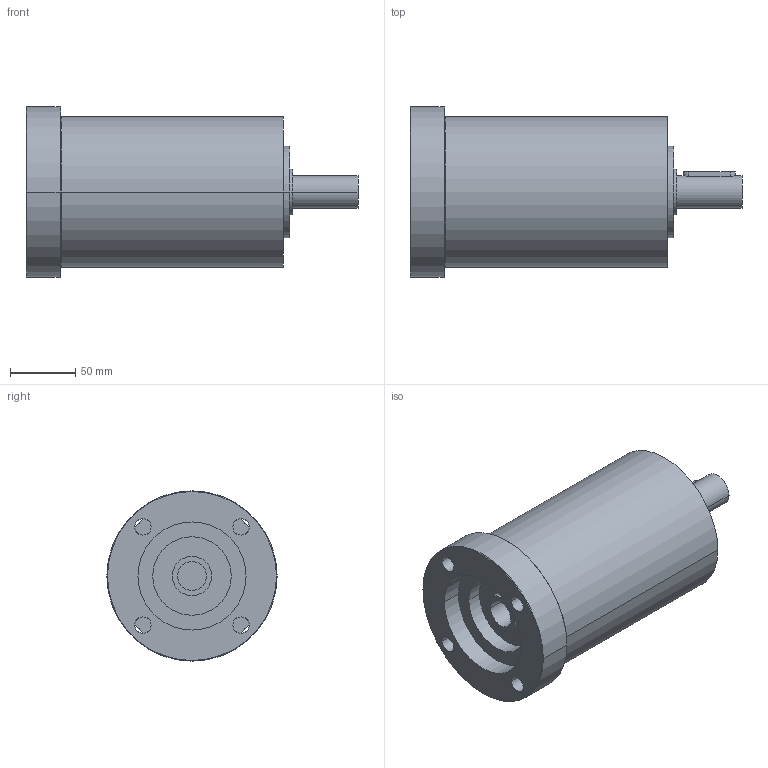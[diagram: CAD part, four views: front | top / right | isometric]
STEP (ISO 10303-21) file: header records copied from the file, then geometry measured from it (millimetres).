
FILE_DESCRIPTION(('CoCreate Modeling STEP Export'),'2;1');
FILE_NAME('GPR125_ig-9-12-16-20-28-35_25_B14_22_P21.stp','2014-08-26T14:11:08',(''),(''),'CoCreate Modeling STEP processor for AP214 (Solid Model)','CoCreate Modeling 16.00C 25-Feb-2009 (C) Parametric Technology GmbH','');
FILE_SCHEMA(('AUTOMOTIVE_DESIGN { 1 0 10303 214 1 1 1 1 }'));
Length unit declared in the file: millimetre
Products named in the file (2): GPR125_ig-9-12-16-20-28-35_25_B14_22_P21
Assembly tree (1 placements, depth 2):
  GPR125_ig-9-12-16-20-28-35_25_B14_22_P21
    GPR125_ig-9-12-16-20-28-35_25_B14_22_P21
Bounding box: 253.5 x 130 x 130 mm (x, y, z)
Volume: 2016864.8 mm3; surface area: 121542.2 mm2
Topology: 1 solids, 1 shells, 67 faces, 176 edges, 118 vertices
Faces by surface type: cylinder 38, plane 21, cone 8
Entity records: 1764 total; most frequent: ORIENTED_EDGE 348, CARTESIAN_POINT 328, DIRECTION 232, EDGE_CURVE 174, VERTEX_POINT 118, AXIS2_PLACEMENT_3D 90, EDGE_LOOP 84, FACE_OUTER_BOUND 67
